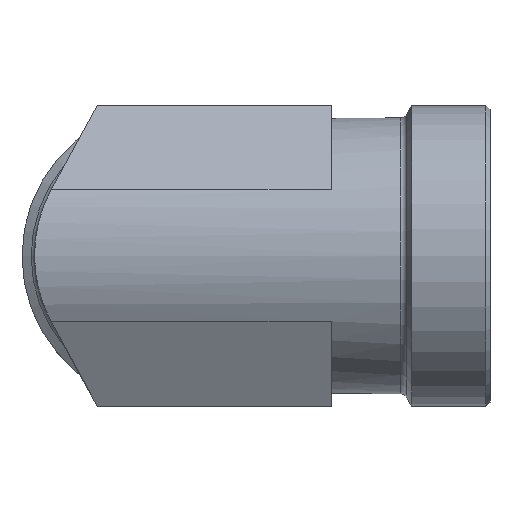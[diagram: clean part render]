
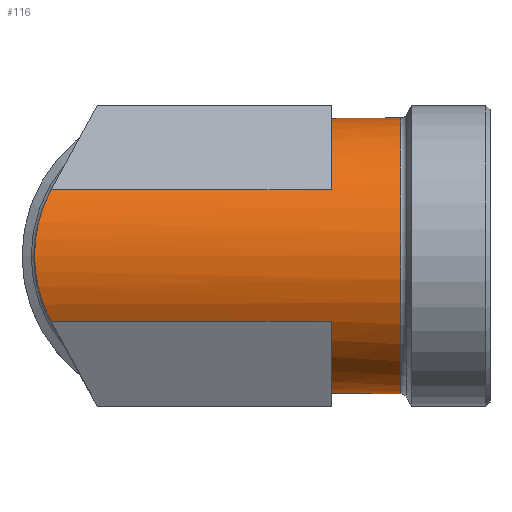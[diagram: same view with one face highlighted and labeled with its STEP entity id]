
A CAD part, top view. The second image highlights one B-rep face of the part: STEP entity #116.
In plain terms, the highlighted cylindrical face has radius 16.5 mm (diameter 33 mm), a full revolution.
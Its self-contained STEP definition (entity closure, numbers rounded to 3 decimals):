
#116 = ADVANCED_FACE( '', ( #253, #254 ), #255, .T. );
#253 = FACE_OUTER_BOUND( '', #400, .T. );
#254 = FACE_OUTER_BOUND( '', #401, .T. );
#255 = CYLINDRICAL_SURFACE( '', #402, 16.5 );
#400 = EDGE_LOOP( '', ( #636, #637, #638, #639, #640, #641, #642, #643 ) );
#401 = EDGE_LOOP( '', ( #644 ) );
#402 = AXIS2_PLACEMENT_3D( '', #645, #646, #647 );
#636 = ORIENTED_EDGE( '', *, *, #827, .T. );
#637 = ORIENTED_EDGE( '', *, *, #828, .F. );
#638 = ORIENTED_EDGE( '', *, *, #785, .F. );
#639 = ORIENTED_EDGE( '', *, *, #822, .F. );
#640 = ORIENTED_EDGE( '', *, *, #829, .F. );
#641 = ORIENTED_EDGE( '', *, *, #807, .F. );
#642 = ORIENTED_EDGE( '', *, *, #819, .F. );
#643 = ORIENTED_EDGE( '', *, *, #825, .F. );
#644 = ORIENTED_EDGE( '', *, *, #778, .T. );
#645 = CARTESIAN_POINT( '', ( -60., 0., 0. ) );
#646 = DIRECTION( '', ( 1., 0., 0. ) );
#647 = DIRECTION( '', ( 0., 0., 1. ) );
#778 = EDGE_CURVE( '', #906, #906, #907, .T. );
#785 = EDGE_CURVE( '', #916, #918, #919, .F. );
#807 = EDGE_CURVE( '', #950, #952, #953, .F. );
#819 = EDGE_CURVE( '', #963, #950, #969, .T. );
#822 = EDGE_CURVE( '', #909, #916, #972, .T. );
#825 = EDGE_CURVE( '', #975, #963, #977, .T. );
#827 = EDGE_CURVE( '', #975, #979, #980, .T. );
#828 = EDGE_CURVE( '', #918, #979, #981, .F. );
#829 = EDGE_CURVE( '', #952, #909, #982, .T. );
#906 = VERTEX_POINT( '', #1066 );
#907 = CIRCLE( '', #1067, 16.5 );
#909 = VERTEX_POINT( '', #1069 );
#916 = VERTEX_POINT( '', #1079 );
#918 = VERTEX_POINT( '', #1082 );
#919 = LINE( '', #1083, #1084 );
#950 = VERTEX_POINT( '', #1124 );
#952 = VERTEX_POINT( '', #1127 );
#953 = CIRCLE( '', #1128, 16.5 );
#963 = VERTEX_POINT( '', #1139 );
#969 = LINE( '', #1148, #1149 );
#972 = ELLIPSE( '', #1152, 23.335, 16.5 );
#975 = VERTEX_POINT( '', #1155 );
#977 = ELLIPSE( '', #1158, 23.335, 16.5 );
#979 = VERTEX_POINT( '', #1160 );
#980 = LINE( '', #1161, #1162 );
#981 = CIRCLE( '', #1163, 16.5 );
#982 = LINE( '', #1164, #1165 );
#1066 = CARTESIAN_POINT( '', ( 27.307, 0., 16.5 ) );
#1067 = AXIS2_PLACEMENT_3D( '', #1249, #1250, #1251 );
#1069 = CARTESIAN_POINT( '', ( 9., 13.829, -9. ) );
#1079 = CARTESIAN_POINT( '', ( 9., -13.829, -9. ) );
#1082 = CARTESIAN_POINT( '', ( 19., -13.829, -9. ) );
#1083 = CARTESIAN_POINT( '', ( -60., -13.829, -9. ) );
#1084 = VECTOR( '', #1256, 1000. );
#1124 = CARTESIAN_POINT( '', ( 19., 7.875, 14.499 ) );
#1127 = CARTESIAN_POINT( '', ( 19., 13.829, -9. ) );
#1128 = AXIS2_PLACEMENT_3D( '', #1279, #1280, #1281 );
#1139 = CARTESIAN_POINT( '', ( -14.499, 7.875, 14.499 ) );
#1148 = CARTESIAN_POINT( '', ( -16., 7.875, 14.499 ) );
#1149 = VECTOR( '', #1295, 1000. );
#1152 = AXIS2_PLACEMENT_3D( '', #1299, #1300, #1301 );
#1155 = CARTESIAN_POINT( '', ( -14.499, -7.875, 14.499 ) );
#1158 = AXIS2_PLACEMENT_3D( '', #1306, #1307, #1308 );
#1160 = CARTESIAN_POINT( '', ( 19., -7.875, 14.499 ) );
#1161 = CARTESIAN_POINT( '', ( -16., -7.875, 14.499 ) );
#1162 = VECTOR( '', #1309, 1000. );
#1163 = AXIS2_PLACEMENT_3D( '', #1310, #1311, #1312 );
#1164 = CARTESIAN_POINT( '', ( -60., 13.829, -9. ) );
#1165 = VECTOR( '', #1313, 1000. );
#1249 = CARTESIAN_POINT( '', ( 27.307, 0., 0. ) );
#1250 = DIRECTION( '', ( -1., 0., 0. ) );
#1251 = DIRECTION( '', ( 0., 0., 1. ) );
#1256 = DIRECTION( '', ( -1., 0., 0. ) );
#1279 = CARTESIAN_POINT( '', ( 19., 0., 0. ) );
#1280 = DIRECTION( '', ( 1., 0., 0. ) );
#1281 = DIRECTION( '', ( 0., 0., -1. ) );
#1295 = DIRECTION( '', ( 1., 0., 0. ) );
#1299 = CARTESIAN_POINT( '', ( 0., 0., 0. ) );
#1300 = DIRECTION( '', ( -0.707, 0., -0.707 ) );
#1301 = DIRECTION( '', ( -0.707, 0., 0.707 ) );
#1306 = CARTESIAN_POINT( '', ( 0., 0., 0. ) );
#1307 = DIRECTION( '', ( -0.707, 0., -0.707 ) );
#1308 = DIRECTION( '', ( -0.707, 0., 0.707 ) );
#1309 = DIRECTION( '', ( 1., 0., 0. ) );
#1310 = CARTESIAN_POINT( '', ( 19., 0., 0. ) );
#1311 = DIRECTION( '', ( 1., 0., 0. ) );
#1312 = DIRECTION( '', ( 0., 0., -1. ) );
#1313 = DIRECTION( '', ( -1., 0., 0. ) );
